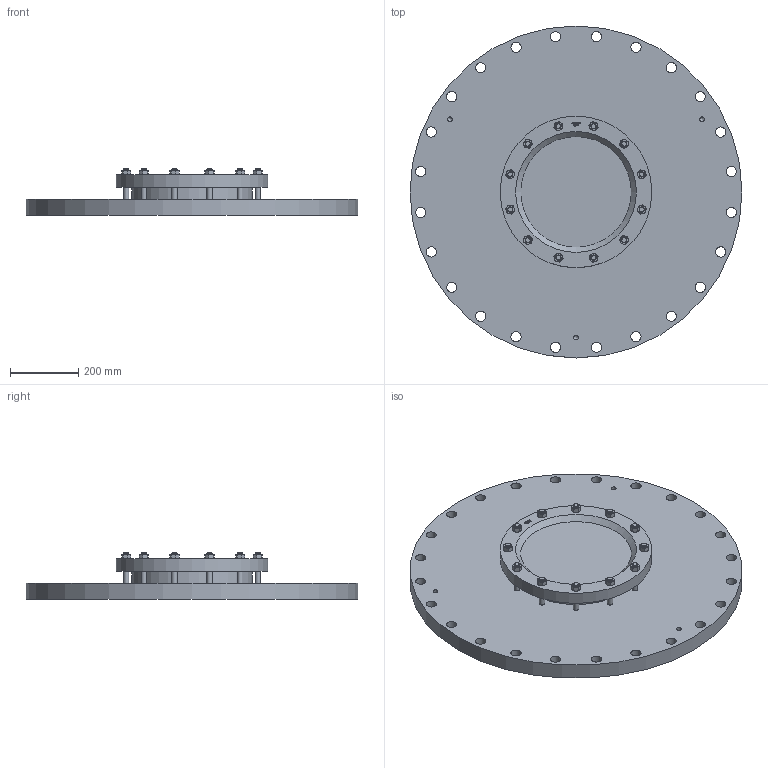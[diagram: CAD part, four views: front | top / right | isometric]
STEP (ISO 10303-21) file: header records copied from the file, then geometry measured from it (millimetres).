
FILE_DESCRIPTION(/* description */ (''),/* implementation_level */ '2;1');
FILE_NAME(/* name */ 'W:\Konstruktion_ACI\325\_STEP\325-800-6.stp',/* time_stamp */ '2022-03-02T17:30:28+01:00',/* author */ ('koslowksi'),/* organization */ (''),/* preprocessor_version */ 'ST-DEVELOPER v16.1',/* originating_system */ 'Autodesk Inventor 2016',/* authorisation */ '');
FILE_SCHEMA (('AUTOMOTIVE_DESIGN { 1 0 10303 214 3 1 1 }'));
Length unit declared in the file: millimetre
Products named in the file (1): 325-800-6
Bounding box: 975 x 975 x 137 mm (x, y, z)
Volume: 42239795.8 mm3; surface area: 1979242 mm2
Topology: 1 solids, 1 shells, 563 faces, 1408 edges, 897 vertices
Faces by surface type: plane 235, cone 160, bspline 108, cylinder 58, torus 2
Full cylindrical faces by diameter (mm): 13.835 x3, 16 x24, 30 x24, 355 x1, 356 x2, 358 x2, 445 x1, 975 x1
Entity records: 16904 total; most frequent: CARTESIAN_POINT 4695, ORIENTED_EDGE 2586, DIRECTION 1977, EDGE_CURVE 1293, VERTEX_POINT 858, EDGE_LOOP 761, AXIS2_PLACEMENT_3D 732, STYLED_ITEM 563
